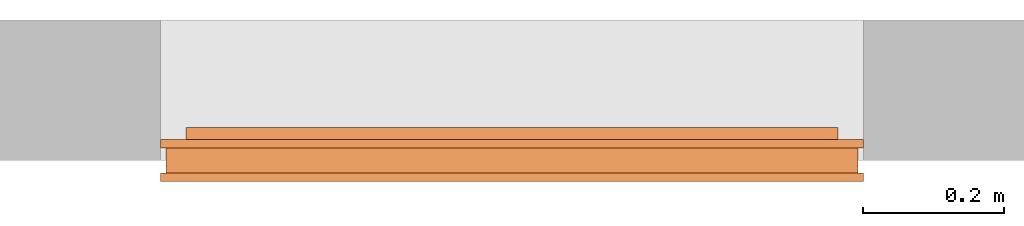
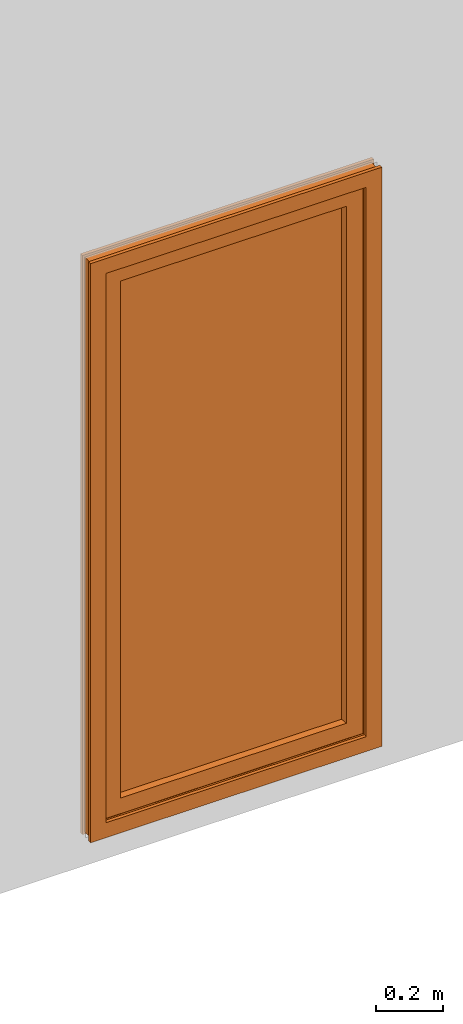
# One storey, part 2 of 2: 1 proxy.
"""IFC2X3 building model written with IfcOpenShell, lengths in millimetres."""

import ifcopenshell
import ifcopenshell.guid

model = None  # the IFC model being written
_history = None  # IfcOwnerHistory: only IFC2X3 demands one
_inside = {}  # id of a spatial element -> (the spatial element, [elements in it])
_under = {}  # id of a project, library or spatial element -> (it, [spatial elements below it])
_declared = {}  # id of a project -> (the project, [libraries it declares])
_typed = {}  # id of a type object -> (the type object, [elements of that type])
_made_of = {}  # id of a material, layer set ... -> (it, [elements and type objects made of it])


def new_model(schema):
    """Start an empty IFC model of exactly this schema.

    Asked for "IFC4X3", IfcOpenShell would pick the latest addendum, in which some entities
    have other attributes; the version numbers below select the first issue.
    IFC2X3 requires an IfcOwnerHistory on every rooted entity: one is made here for all.
    """
    global model, _history
    if schema == "IFC4X3":
        model = ifcopenshell.file(schema_version=(4, 3, 0, 0))
    else:
        model = ifcopenshell.file(schema=schema)
    _inside.clear()
    _under.clear()
    _declared.clear()
    _typed.clear()
    _made_of.clear()
    _history = None
    if model.schema == "IFC2X3":
        org = make("IfcOrganization", Name="unknown")
        user = make(
            "IfcPersonAndOrganization",
            ThePerson=make("IfcPerson", FamilyName="unknown"),
            TheOrganization=org,
        )
        app = make(
            "IfcApplication",
            ApplicationDeveloper=org,
            Version="unknown",
            ApplicationFullName="unknown",
            ApplicationIdentifier="unknown",
        )
        _history = make(
            "IfcOwnerHistory",
            OwningUser=user,
            OwningApplication=app,
            ChangeAction="ADDED",
            CreationDate=0,
        )
    return model


def make(cls, **values):
    """One entity of the class cls with the attributes given. An attribute that is None is left unset."""
    return model.create_entity(
        cls, **{name: value for name, value in values.items() if value is not None}
    )


def entity(cls, *values):
    """Any entity or typed value of the class cls, its attributes in the order of the schema. None: left unset."""
    e = model.create_entity(cls)
    for i, value in enumerate(values):
        if value is not None:
            e[i] = value
    return e


def rooted(cls, **values):
    """An entity with a GlobalId (a new one), such as an element, a storey or a relation."""
    return make(cls, GlobalId=ifcopenshell.guid.new(), OwnerHistory=_history, **values)


def si_unit(unit_type, name, prefix=None):
    """IfcSIUnit, for example si_unit("LENGTHUNIT", "METRE", prefix="MILLI")."""
    return make("IfcSIUnit", UnitType=unit_type, Prefix=prefix, Name=name)


def converted_unit(unit_type, name, factor, base, dimensions=None, offset=None):
    """IfcConversionBasedUnit, such as the inch: factor (a typed value) times the base unit."""
    return make(
        "IfcConversionBasedUnit"
        if offset is None
        else "IfcConversionBasedUnitWithOffset",
        ConversionOffset=offset,
        Dimensions=None
        if dimensions is None
        else entity("IfcDimensionalExponents", *dimensions),
        UnitType=unit_type,
        Name=name,
        ConversionFactor=make(
            "IfcMeasureWithUnit", ValueComponent=factor, UnitComponent=base
        ),
    )


def derived_unit(unit_type, elements):
    """IfcDerivedUnit: a product of units, each with its exponent."""
    return make(
        "IfcDerivedUnit",
        Elements=[
            make("IfcDerivedUnitElement", Unit=unit, Exponent=power)
            for unit, power in elements
        ],
        UnitType=unit_type,
    )


def assignment(units):
    """IfcUnitAssignment: the units of a project."""
    return None if units is None else make("IfcUnitAssignment", Units=units)


def point(xyz):
    """IfcCartesianPoint."""
    return None if xyz is None else make("IfcCartesianPoint", Coordinates=xyz)


def direction(xyz):
    """IfcDirection."""
    return None if xyz is None else make("IfcDirection", DirectionRatios=xyz)


def frame(location, z_axis=None, x_axis=None):
    """IfcAxis2Placement3D, a coordinate frame: its origin and axes. An axis left out is left unset."""
    return make(
        "IfcAxis2Placement3D",
        Location=point(location),
        Axis=direction(z_axis),
        RefDirection=direction(x_axis),
    )


def origin():
    """The frame at (0, 0, 0) with its axes left unset."""
    return frame((0.0, 0.0, 0.0))


def place(relative_to, where):
    """IfcLocalPlacement: puts the frame where relative to a parent placement (None: the world)."""
    return make(
        "IfcLocalPlacement", PlacementRelTo=relative_to, RelativePlacement=where
    )


def context(
    kind, dimensions, precision=None, world=None, true_north=None, identifier=None
):
    """IfcGeometricRepresentationContext, for example the 3D "Model" context."""
    return make(
        "IfcGeometricRepresentationContext",
        ContextIdentifier=identifier,
        ContextType=kind,
        CoordinateSpaceDimension=dimensions,
        Precision=precision,
        WorldCoordinateSystem=world,
        TrueNorth=true_north,
    )


def subcontext(parent, identifier, kind, view, scale=None):
    """IfcGeometricRepresentationSubContext, for example "Body" below "Model"."""
    return make(
        "IfcGeometricRepresentationSubContext",
        ContextIdentifier=identifier,
        ContextType=kind,
        ParentContext=parent,
        TargetScale=scale,
        TargetView=view,
    )


def project(units=None, contexts=None):
    """IfcProject with its units and contexts."""
    return rooted(
        "IfcProject",
        Name="project",
        RepresentationContexts=contexts,
        UnitsInContext=assignment(units),
    )


def spatial(cls, under=None, at=None, **own):
    """A site, building, storey or space (cls), placed at a placement, below another one or the project."""
    s = rooted(cls, ObjectPlacement=at, **own)
    if under is not None:
        _under.setdefault(under.id(), (under, []))[1].append(s)
    return s


def faces_of(points, faces, orient=None, outer=None):
    """IfcFace entities. A face is a list of loops; a loop is a list of indices into points, from 0.

    orient and outer hold one flag for each loop. By default every Orientation is true, the
    first loop of a face is its IfcFaceOuterBound and the others are IfcFaceBound.
    """
    made = []
    for i, loops in enumerate(faces):
        bounds = []
        for j, loop in enumerate(loops):
            is_outer = j == 0 if outer is None else outer[i][j]
            bounds.append(
                make(
                    "IfcFaceOuterBound" if is_outer else "IfcFaceBound",
                    Bound=make("IfcPolyLoop", Polygon=[points[k] for k in loop]),
                    Orientation=True if orient is None else orient[i][j],
                )
            )
        made.append(make("IfcFace", Bounds=bounds))
    return made


def faceted_brep(points, faces, orient=None, outer=None, voids=None):
    """IfcFacetedBrep: a solid bounded by flat faces; with voids (closed shells), ...WithVoids."""
    shared = [point(p) for p in points]
    hull = make("IfcClosedShell", CfsFaces=faces_of(shared, faces, orient, outer))
    if voids is None:
        return make("IfcFacetedBrep", Outer=hull)
    return make(
        "IfcFacetedBrepWithVoids",
        Outer=hull,
        Voids=[
            make(cls, CfsFaces=faces_of(shared, fs, o, b)) for cls, fs, o, b in voids
        ],
    )


def shape(context_of_items, identifier, shape_type, items):
    """IfcShapeRepresentation: the items that make up one representation, for example the "Body"."""
    return make(
        "IfcShapeRepresentation",
        ContextOfItems=context_of_items,
        RepresentationIdentifier=identifier,
        RepresentationType=shape_type,
        Items=items,
    )


def source(mapping_origin, context_of_items, identifier, shape_type, items):
    """IfcRepresentationMap: a shape defined once, which mapped items show again and again."""
    return make(
        "IfcRepresentationMap",
        MappingOrigin=mapping_origin,
        MappedRepresentation=shape(context_of_items, identifier, shape_type, items),
    )


def transform(
    local_origin,
    x_axis=None,
    y_axis=None,
    z_axis=None,
    scale=None,
    scale2=None,
    scale3=None,
    uniform=True,
):
    """IfcCartesianTransformationOperator3D, or its non-uniform kind. x_axis, y_axis, z_axis: its Axis1, 2, 3."""
    if uniform:
        return make(
            "IfcCartesianTransformationOperator3D",
            Axis1=direction(x_axis),
            Axis2=direction(y_axis),
            LocalOrigin=point(local_origin),
            Scale=scale,
            Axis3=direction(z_axis),
        )
    return make(
        "IfcCartesianTransformationOperator3DnonUniform",
        Axis1=direction(x_axis),
        Axis2=direction(y_axis),
        LocalOrigin=point(local_origin),
        Scale=scale,
        Axis3=direction(z_axis),
        Scale2=scale2,
        Scale3=scale3,
    )


def mapped(mapping_source, mapping_target):
    """IfcMappedItem: shows the shape of a source again, moved by a transform."""
    return make(
        "IfcMappedItem", MappingSource=mapping_source, MappingTarget=mapping_target
    )


def material(Name=None, Category=None):
    """IfcMaterial."""
    return make("IfcMaterial", Name=Name, Category=Category)


def material_list(materials):
    """IfcMaterialList."""
    return make("IfcMaterialList", Materials=materials)


def made_of(thing, what):
    """Note that an element or type object is made of a material, layer set ...; save() writes the relation."""
    if what is not None:
        _made_of.setdefault(what.id(), (what, []))[1].append(thing)
    return thing


def type_object(cls, material=None, **own):
    """A type object (cls), such as IfcWallType, which elements share."""
    return made_of(rooted(cls, **own), material)


def type_shapes(of_type, sources):
    """Give a type object the sources (RepresentationMaps) that its elements show as mapped items."""
    of_type.RepresentationMaps = sources


def element(
    cls,
    number,
    at=None,
    inside=None,
    cuts=None,
    type_object=None,
    material=None,
    context=None,
    identifier="Body",
    shape_type=None,
    held_by="IfcProductDefinitionShape",
    body=None,
    shapes=None,
    **own,
):
    """One element of the class cls, such as IfcWall. Its Tag is "e" and its number.

    at: its placement. inside: the storey or other place that contains it. cuts: it is an
    opening in that element (IfcRelVoidsElement). A single representation is given by context,
    identifier, shape_type and body (its items); several are given by shapes. held_by: the class
    of the entity that holds the representations. save() writes the other relations.
    """
    e = rooted(cls, Tag="e%d" % number, ObjectPlacement=at, **own)
    if body is not None:
        shapes = [shape(context, identifier, shape_type, body)]
    if shapes is not None:
        e.Representation = make(held_by, Representations=shapes)
    if inside is not None:
        _inside.setdefault(inside.id(), (inside, []))[1].append(e)
    if cuts is not None:
        rooted(
            "IfcRelVoidsElement", RelatingBuildingElement=cuts, RelatedOpeningElement=e
        )
    if type_object is not None:
        _typed.setdefault(type_object.id(), (type_object, []))[1].append(e)
    return made_of(e, material)


def aggregate(whole, parts):
    """IfcRelAggregates: a whole, such as a stair, and the parts it consists of."""
    return rooted("IfcRelAggregates", RelatingObject=whole, RelatedObjects=parts)


def save(model, path):
    """Write the relations noted so far, then the file.

    IfcRelAggregates (storeys below a building ...), IfcRelContainedInSpatialStructure (elements
    in a storey), IfcRelDefinesByType, IfcRelAssociatesMaterial and IfcRelDeclares: one each for
    every whole, place, type object, material and project.
    """
    for whole, parts in _under.values():
        aggregate(whole, parts)
    for where, things in _inside.values():
        rooted(
            "IfcRelContainedInSpatialStructure",
            RelatedElements=things,
            RelatingStructure=where,
        )
    for kind, things in _typed.values():
        rooted("IfcRelDefinesByType", RelatedObjects=things, RelatingType=kind)
    for what, things in _made_of.values():
        rooted("IfcRelAssociatesMaterial", RelatedObjects=things, RelatingMaterial=what)
    for by, libraries in _declared.values():
        rooted("IfcRelDeclares", RelatingContext=by, RelatedDefinitions=libraries)
    model.write(path)


model = new_model("IFC2X3")

# Units and contexts
model_context = context("Model", 3, precision=0.01, world=origin(), true_north=direction((6.12303176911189e-17, 1.0)))
body_context = subcontext(model_context, "Body", "Model", "MODEL_VIEW")
ifc_project = project(units=[si_unit("LENGTHUNIT", "METRE", prefix="MILLI"), si_unit("AREAUNIT", "SQUARE_METRE"), si_unit("VOLUMEUNIT", "CUBIC_METRE"), converted_unit("PLANEANGLEUNIT", "DEGREE", entity("IfcRatioMeasure", 0.0174532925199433), si_unit("PLANEANGLEUNIT", "RADIAN"), dimensions=[0, 0, 0, 0, 0, 0, 0]), si_unit("MASSUNIT", "GRAM", prefix="KILO"), derived_unit("MASSDENSITYUNIT", [(si_unit("MASSUNIT", "GRAM", prefix="KILO"), 1), (si_unit("LENGTHUNIT", "METRE"), -3)]), si_unit("TIMEUNIT", "SECOND"), si_unit("FREQUENCYUNIT", "HERTZ"), si_unit("THERMODYNAMICTEMPERATUREUNIT", "DEGREE_CELSIUS"), derived_unit("THERMALTRANSMITTANCEUNIT", [(si_unit("MASSUNIT", "GRAM", prefix="KILO"), 1), (si_unit("THERMODYNAMICTEMPERATUREUNIT", "KELVIN"), -1), (si_unit("TIMEUNIT", "SECOND"), -3)]), derived_unit("VOLUMETRICFLOWRATEUNIT", [(si_unit("LENGTHUNIT", "METRE"), 3), (si_unit("TIMEUNIT", "SECOND"), -1)]), si_unit("ELECTRICCURRENTUNIT", "AMPERE"), si_unit("ELECTRICVOLTAGEUNIT", "VOLT"), si_unit("POWERUNIT", "WATT"), si_unit("FORCEUNIT", "NEWTON", prefix="KILO"), si_unit("ILLUMINANCEUNIT", "LUX"), si_unit("LUMINOUSFLUXUNIT", "LUMEN"), si_unit("LUMINOUSINTENSITYUNIT", "CANDELA"), derived_unit("USERDEFINED", [(si_unit("MASSUNIT", "GRAM", prefix="KILO"), -1), (si_unit("LENGTHUNIT", "METRE"), -2), (si_unit("TIMEUNIT", "SECOND"), 3), (si_unit("LUMINOUSFLUXUNIT", "LUMEN"), 1)]), derived_unit("LINEARVELOCITYUNIT", [(si_unit("LENGTHUNIT", "METRE"), 1), (si_unit("TIMEUNIT", "SECOND"), -1)]), si_unit("PRESSUREUNIT", "PASCAL"), derived_unit("USERDEFINED", [(si_unit("LENGTHUNIT", "METRE"), -2), (si_unit("MASSUNIT", "GRAM", prefix="KILO"), 1), (si_unit("TIMEUNIT", "SECOND"), -2)])], contexts=[model_context])

# Site, building, storey
site_placement = place(None, origin())
site = spatial("IfcSite", under=ifc_project, at=site_placement, Name="Default", CompositionType="ELEMENT")
building_placement = place(site_placement, origin())
building = spatial("IfcBuilding", under=site, at=building_placement, CompositionType="ELEMENT")
storey_placement = place(building_placement, origin())
storey = spatial("IfcBuildingStorey", under=building, at=storey_placement, Name="Nivel 1", CompositionType="ELEMENT", Elevation=0.0)

# Proxy
ifc_material_1 = material(Name="Glass")
ifc_material_2 = material(Name="RAU-PVC")
ifc_material_list_1 = material_list([ifc_material_1, ifc_material_2])
ifc_material_list_2 = material_list([ifc_material_1, ifc_material_2])
building_element_proxy_type = type_object("IfcBuildingElementProxyType", Name="5.1 REH_ED-60 H Z74", material=ifc_material_list_2)
shared_shape = source(origin(), body_context, "Body", "Brep", [
    faceted_brep([(54.0, 32.0, 2040.0), (940.0, 32.0, 2040.0), (940.0, 32.0, 60.0), (54.0, 32.0, 60.0), (54.0, 17.0, 2040.0), (54.0, 17.0, 60.0), (940.0, 17.0, 60.0), (940.0, 17.0, 2040.0)], [[[0, 1, 2, 3]], [[4, 5, 6, 7]], [[4, 7, 1, 0]], [[7, 6, 2, 1]], [[6, 5, 3, 2]], [[5, 4, 0, 3]]]),
    faceted_brep([(946.0, 29.0, 54.0), (946.0, 17.0, 54.0), (946.0, 17.0, 2046.0), (946.0, 29.0, 2046.0), (972.201854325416, 65.0, 27.798145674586), (970.0, 29.0, 30.0), (970.0, 29.0, 2070.0), (972.201854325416, 65.0, 2072.20185432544), (946.0, 77.0, 54.0), (946.0, 65.0, 54.0), (946.0, 65.0, 2046.0), (946.0, 77.0, 2046.0), (1000.0, 65.0, 0.0), (1000.0, 77.0, 0.0), (1000.0, 77.0, 2100.0), (1000.0, 65.0, 2100.0), (992.0, 29.0, 8.0), (992.0, 65.0, 8.0), (992.0, 65.0, 2092.0), (992.0, 29.0, 2092.0), (1000.0, 17.0, 0.0), (1000.0, 29.0, 0.0), (1000.0, 29.0, 2100.0), (1000.0, 17.0, 2100.0), (54.0, 17.0, 2046.0), (54.0, 29.0, 2046.0), (30.0, 29.0, 2070.0), (27.798145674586, 65.0, 2072.20185432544), (54.0, 65.0, 2046.0), (54.0, 77.0, 2046.0), (0.0, 77.0, 2100.0), (0.0, 65.0, 2100.0), (8.0, 65.0, 2092.0), (8.0, 29.0, 2092.0), (0.0, 29.0, 2100.0), (0.0, 17.0, 2100.0), (54.0, 17.0, 54.0), (54.0, 29.0, 54.0), (30.0, 29.0, 30.0), (27.7981456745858, 65.0, 27.7981456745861), (54.0, 65.0, 54.0), (54.0, 77.0, 54.0), (0.0, 77.0, 0.0), (0.0, 65.0, 0.0), (8.0, 65.0, 8.0), (8.0, 29.0, 8.0), (0.0, 29.0, 0.0), (0.0, 17.0, 0.0)], [[[0, 1, 2, 3]], [[4, 5, 6, 7]], [[8, 9, 10, 11]], [[12, 13, 14, 15]], [[16, 17, 18, 19]], [[20, 21, 22, 23]], [[3, 2, 24, 25]], [[7, 6, 26, 27]], [[11, 10, 28, 29]], [[15, 14, 30, 31]], [[19, 18, 32, 33]], [[23, 22, 34, 35]], [[25, 24, 36, 37]], [[27, 26, 38, 39]], [[29, 28, 40, 41]], [[31, 30, 42, 43]], [[33, 32, 44, 45]], [[35, 34, 46, 47]], [[37, 36, 1, 0]], [[3, 25, 37, 0], [5, 38, 26, 6]], [[39, 38, 5, 4]], [[7, 27, 39, 4], [9, 40, 28, 10]], [[41, 40, 9, 8]], [[11, 29, 41, 8], [13, 42, 30, 14]], [[43, 42, 13, 12]], [[15, 31, 43, 12], [17, 44, 32, 18]], [[45, 44, 17, 16]], [[19, 33, 45, 16], [21, 46, 34, 22]], [[47, 46, 21, 20]], [[23, 35, 47, 20], [1, 36, 24, 2]]], outer=[[True], [True], [True], [True], [True], [True], [True], [True], [True], [True], [True], [True], [True], [True], [True], [True], [True], [True], [True], [False, True], [True], [True, False], [True], [False, True], [True], [True, False], [True], [False, True], [True], [True, False]]),
    faceted_brep([(944.000685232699, 60.0, 2044.00068523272), (944.000685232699, 17.0, 2044.00068523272), (944.000685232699, 17.0, 55.9993147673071), (944.000685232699, 60.0, 55.9993147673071), (964.000685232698, 17.0, 35.9993147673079), (35.999314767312, 17.0, 35.9993147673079), (35.999314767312, 17.0, 2064.00068523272), (964.000685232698, 17.0, 2064.00068523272), (55.9993147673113, 17.0, 2044.00068523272), (55.9993147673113, 17.0, 55.9993147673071), (55.9993147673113, 60.0, 55.999314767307), (55.9993147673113, 60.0, 2044.00068523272), (887.350050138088, 60.0, 1987.35005013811), (112.649949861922, 60.0, 1987.35005013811), (112.649949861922, 60.0, 112.649949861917), (887.350050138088, 60.0, 112.649949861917), (882.259015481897, 41.0, 1982.25901548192), (882.259015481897, 41.0, 117.740984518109), (117.740984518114, 41.0, 117.740984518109), (117.740984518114, 41.0, 1982.25901548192), (904.030685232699, 41.0, 2004.03068523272), (95.9693147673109, 41.0, 2004.03068523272), (95.9693147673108, 41.0, 95.9693147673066), (904.030685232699, 41.0, 95.9693147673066), (904.030685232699, 22.0, 2004.03068523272), (904.030685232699, 22.0, 95.9693147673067), (95.9693147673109, 22.0, 95.9693147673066), (95.9693147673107, 22.0, 2004.03068523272), (885.325009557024, 22.0, 1985.32500955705), (114.674990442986, 22.0, 1985.32500955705), (114.674990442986, 22.0, 114.674990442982), (885.325009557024, 22.0, 114.674990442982), (891.270955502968, 0.0, 1991.27095550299), (891.270955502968, 0.0, 108.729044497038), (108.729044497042, 0.0, 108.729044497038), (108.729044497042, 0.0, 1991.27095550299), (964.000685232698, 0.0, 2064.00068523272), (35.9993147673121, 0.0, 2064.00068523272), (35.999314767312, 0.0, 35.9993147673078), (964.000685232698, 0.0, 35.9993147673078)], [[[0, 1, 2, 3]], [[4, 5, 6, 7], [1, 8, 9, 2]], [[3, 2, 9, 10]], [[3, 10, 11, 0], [12, 13, 14, 15]], [[16, 12, 15, 17]], [[17, 15, 14, 18]], [[17, 18, 19, 16], [20, 21, 22, 23]], [[24, 20, 23, 25]], [[25, 23, 22, 26]], [[25, 26, 27, 24], [28, 29, 30, 31]], [[32, 28, 31, 33]], [[33, 31, 30, 34]], [[33, 34, 35, 32], [36, 37, 38, 39]], [[7, 36, 39, 4]], [[4, 39, 38, 5]], [[10, 9, 8, 11]], [[18, 14, 13, 19]], [[26, 22, 21, 27]], [[34, 30, 29, 35]], [[5, 38, 37, 6]], [[11, 8, 1, 0]], [[19, 13, 12, 16]], [[27, 21, 20, 24]], [[35, 29, 28, 32]], [[6, 37, 36, 7]]], outer=[[True], [True, False], [True], [True, False], [True], [True], [False, True], [True], [True], [True, False], [True], [True], [False, True], [True], [True], [True], [True], [True], [True], [True], [True], [True], [True], [True], [True]]),
])
type_shapes(building_element_proxy_type, [shared_shape])
proxy_placement = place(storey_placement, frame((-1323.73357560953, 2828.09928072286, 100.0), z_axis=(0.0, 0.0, 1.0), x_axis=(-1.0, 0.0, 0.0)))
element("IfcBuildingElementProxy", 1, at=proxy_placement, inside=storey, type_object=building_element_proxy_type, material=ifc_material_list_1, Name="5.1 REH_ED-60 H Z74 :5.1 REH_ED-60 H Z74", ObjectType="5.1 REH_ED-60 H Z74", context=body_context, shape_type="MappedRepresentation", body=[
    mapped(shared_shape, transform((0.0, 0.0, 0.0), scale=1.0)),
])

save(model, "model.ifc")
